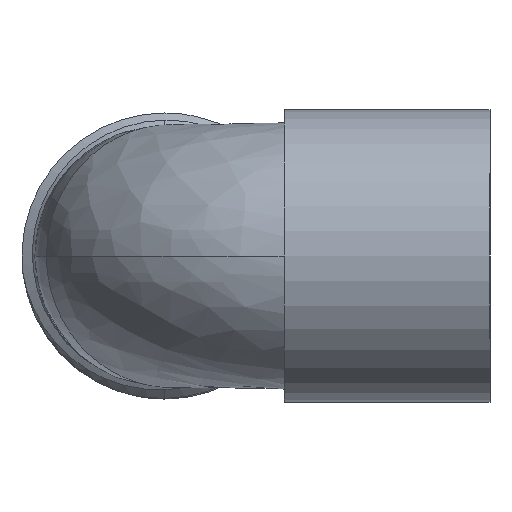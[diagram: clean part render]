
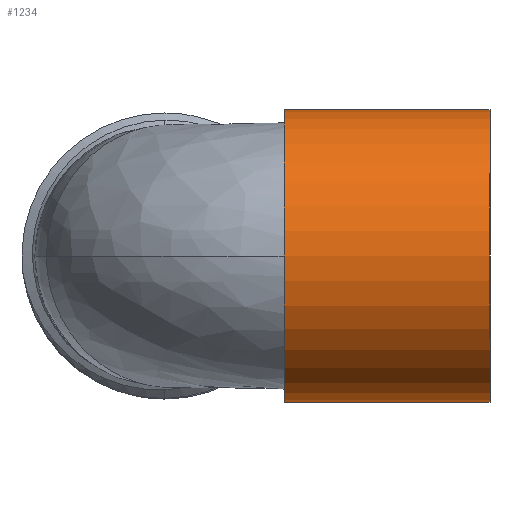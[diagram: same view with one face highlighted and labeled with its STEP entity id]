
A CAD part, left-side view. The second image highlights one B-rep face of the part: STEP entity #1234.
In plain terms, the highlighted cylindrical face has radius 13.5 mm (diameter 27 mm), a partial arc.
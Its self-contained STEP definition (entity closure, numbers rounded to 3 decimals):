
#502 = DIRECTION ( 'NONE',  ( 0., 1., 0. ) ) ;
#503 = CIRCLE ( 'NONE', #507, 13.5 ) ;
#507 = AXIS2_PLACEMENT_3D ( 'NONE', #509, #502, #513 ) ;
#509 = CARTESIAN_POINT ( 'NONE',  ( 0., -11., 0. ) ) ;
#513 = DIRECTION ( 'NONE',  ( 0., 0., 1. ) ) ;
#740 = LINE ( 'NONE', #745, #744 ) ;
#743 = DIRECTION ( 'NONE',  ( 0., 1., 0. ) ) ;
#744 = VECTOR ( 'NONE', #743, 1000. ) ;
#745 = CARTESIAN_POINT ( 'NONE',  ( 0., 77.38, 13.5 ) ) ;
#752 = CARTESIAN_POINT ( 'NONE',  ( 0., -11., 13.5 ) ) ;
#777 = CARTESIAN_POINT ( 'NONE',  ( 0., 77.38, 0. ) ) ;
#783 = CYLINDRICAL_SURFACE ( 'NONE', #789, 13.5 ) ;
#784 = FACE_OUTER_BOUND ( 'NONE', #1235, .T. ) ;
#787 = DIRECTION ( 'NONE',  ( 0., 0., 1. ) ) ;
#788 = DIRECTION ( 'NONE',  ( 0., 1., 0. ) ) ;
#789 = AXIS2_PLACEMENT_3D ( 'NONE', #777, #788, #787 ) ;
#811 = CARTESIAN_POINT ( 'NONE',  ( 0., -30., -13.5 ) ) ;
#862 = DIRECTION ( 'NONE',  ( 0., 1., 0. ) ) ;
#863 = VECTOR ( 'NONE', #862, 1000. ) ;
#864 = CARTESIAN_POINT ( 'NONE',  ( 0., 77.38, -13.5 ) ) ;
#865 = LINE ( 'NONE', #864, #863 ) ;
#1019 = VERTEX_POINT ( 'NONE', #1926 ) ;
#1024 = VERTEX_POINT ( 'NONE', #1972 ) ;
#1058 = EDGE_CURVE ( 'NONE', #1061, #1024, #865, .T. ) ;
#1061 = VERTEX_POINT ( 'NONE', #811 ) ;
#1192 = EDGE_CURVE ( 'NONE', #1024, #1216, #503, .T. ) ;
#1216 = VERTEX_POINT ( 'NONE', #752 ) ;
#1228 = EDGE_CURVE ( 'NONE', #1019, #1216, #740, .T. ) ;
#1234 = ADVANCED_FACE ( 'NONE', ( #784 ), #783, .T. ) ;
#1235 = EDGE_LOOP ( 'NONE', ( #1236, #1237, #1250, #1252 ) ) ;
#1236 = ORIENTED_EDGE ( 'NONE', *, *, #1058, .F. ) ;
#1237 = ORIENTED_EDGE ( 'NONE', *, *, #1249, .T. ) ;
#1249 = EDGE_CURVE ( 'NONE', #1061, #1019, #3267, .T. ) ;
#1250 = ORIENTED_EDGE ( 'NONE', *, *, #1228, .T. ) ;
#1252 = ORIENTED_EDGE ( 'NONE', *, *, #1192, .F. ) ;
#1926 = CARTESIAN_POINT ( 'NONE',  ( 0., -30., 13.5 ) ) ;
#1972 = CARTESIAN_POINT ( 'NONE',  ( 0., -11., -13.5 ) ) ;
#3264 = DIRECTION ( 'NONE',  ( 0., 0., 1. ) ) ;
#3265 = DIRECTION ( 'NONE',  ( 0., 1., 0. ) ) ;
#3266 = AXIS2_PLACEMENT_3D ( 'NONE', #3306, #3265, #3264 ) ;
#3267 = CIRCLE ( 'NONE', #3266, 13.5 ) ;
#3306 = CARTESIAN_POINT ( 'NONE',  ( 0., -30., 0. ) ) ;
